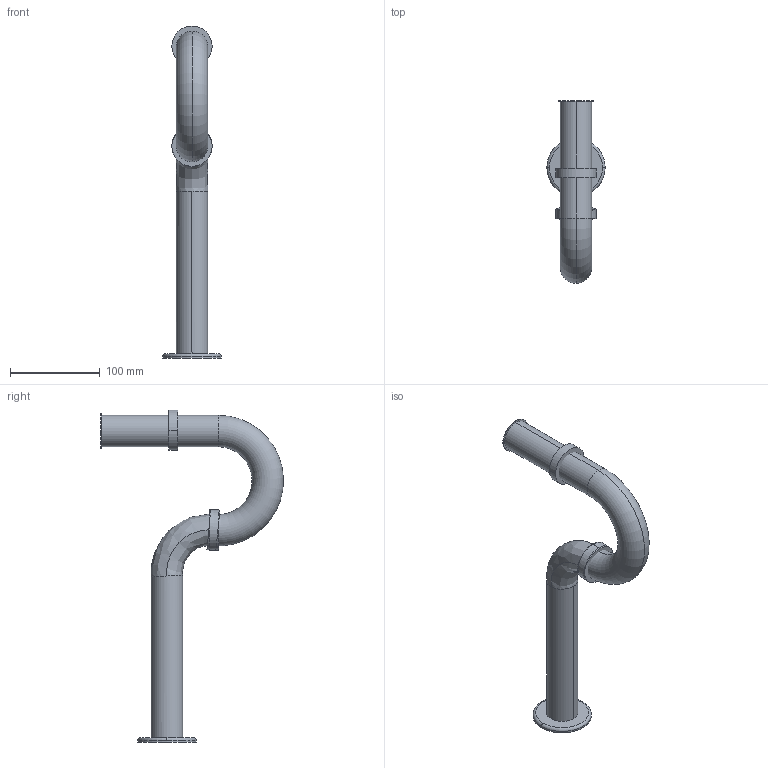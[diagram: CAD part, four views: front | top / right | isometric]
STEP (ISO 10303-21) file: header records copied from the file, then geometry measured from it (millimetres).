
FILE_DESCRIPTION (( 'STEP AP203' ), '1' );
FILE_NAME ('SF153.STEP', '2018-08-13T12:35:30', ( '' ), ( '' ), 'SwSTEP 2.0', 'SolidWorks 2018', '' );
FILE_SCHEMA (( 'CONFIG_CONTROL_DESIGN' ));
Length unit declared in the file: millimetre
Products named in the file (1): SF153
Bounding box: 65 x 203.76 x 369.91 mm (x, y, z)
Volume: 615480.8 mm3; surface area: 88509.9 mm2
Topology: 6 solids, 6 shells, 34 faces, 60 edges, 38 vertices
Faces by surface type: cylinder 16, plane 12, torus 4, bspline 2
Entity records: 1759 total; most frequent: CARTESIAN_POINT 1011, DIRECTION 158, ORIENTED_EDGE 120, AXIS2_PLACEMENT_3D 71, EDGE_CURVE 60, CIRCLE 38, VERTEX_POINT 38, ADVANCED_FACE 34
